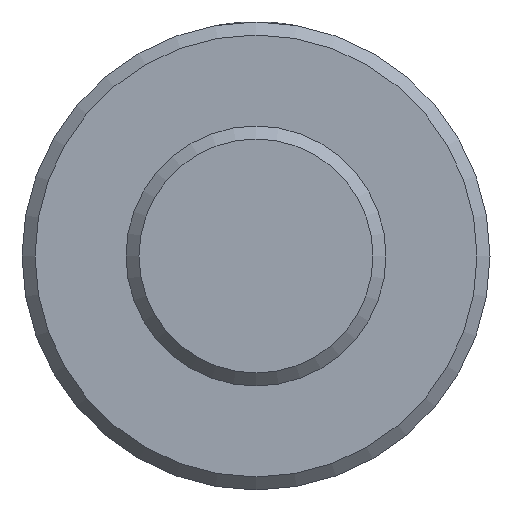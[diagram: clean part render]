
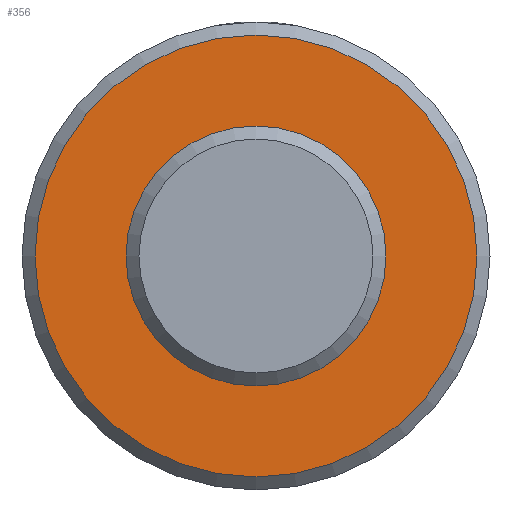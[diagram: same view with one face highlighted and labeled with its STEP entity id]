
A CAD part, left-side view. The second image highlights one B-rep face of the part: STEP entity #356.
In plain terms, the highlighted planar face has unit normal (-1, 0, 0).
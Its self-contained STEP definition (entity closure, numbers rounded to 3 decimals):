
#106 = DIRECTION ( 'NONE',  ( 0., 1., 0. ) ) ;
#156 = VERTEX_POINT ( 'NONE', #314 ) ;
#229 = DIRECTION ( 'NONE',  ( 0., 0., -1. ) ) ;
#314 = CARTESIAN_POINT ( 'NONE',  ( -112.5, 0., -17. ) ) ;
#335 = ORIENTED_EDGE ( 'NONE', *, *, #762, .T. ) ;
#342 = DIRECTION ( 'NONE',  ( 1., 0., 0. ) ) ;
#353 = CARTESIAN_POINT ( 'NONE',  ( -112.5, 0., 0. ) ) ;
#356 = ADVANCED_FACE ( 'NONE', ( #399, #605 ), #664, .F. ) ;
#387 = EDGE_LOOP ( 'NONE', ( #443 ) ) ;
#397 = EDGE_LOOP ( 'NONE', ( #335 ) ) ;
#399 = FACE_BOUND ( 'NONE', #397, .T. ) ;
#443 = ORIENTED_EDGE ( 'NONE', *, *, #569, .T. ) ;
#464 = DIRECTION ( 'NONE',  ( 0., 0., -1. ) ) ;
#486 = CARTESIAN_POINT ( 'NONE',  ( -112.5, 0., 0. ) ) ;
#499 = VERTEX_POINT ( 'NONE', #747 ) ;
#503 = AXIS2_PLACEMENT_3D ( 'NONE', #353, #342, #106 ) ;
#512 = CARTESIAN_POINT ( 'NONE',  ( -112.5, 0., 0. ) ) ;
#521 = CIRCLE ( 'NONE', #562, 10. ) ;
#562 = AXIS2_PLACEMENT_3D ( 'NONE', #486, #660, #229 ) ;
#569 = EDGE_CURVE ( 'NONE', #156, #156, #675, .T. ) ;
#605 = FACE_OUTER_BOUND ( 'NONE', #387, .T. ) ;
#660 = DIRECTION ( 'NONE',  ( 1., 0., 0. ) ) ;
#664 = PLANE ( 'NONE',  #503 ) ;
#675 = CIRCLE ( 'NONE', #779, 17. ) ;
#708 = DIRECTION ( 'NONE',  ( -1., 0., 0. ) ) ;
#747 = CARTESIAN_POINT ( 'NONE',  ( -112.5, 0., -10. ) ) ;
#762 = EDGE_CURVE ( 'NONE', #499, #499, #521, .T. ) ;
#779 = AXIS2_PLACEMENT_3D ( 'NONE', #512, #708, #464 ) ;
